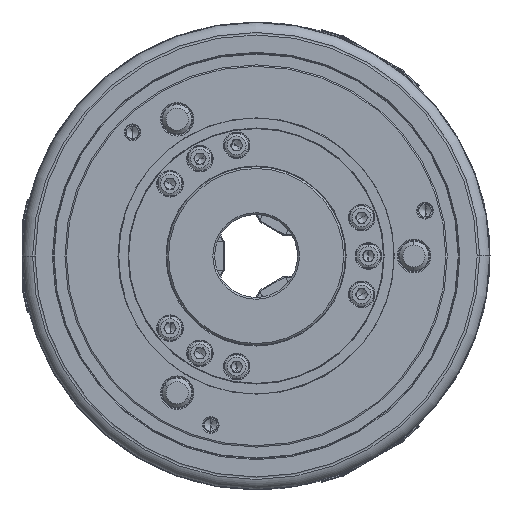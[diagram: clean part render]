
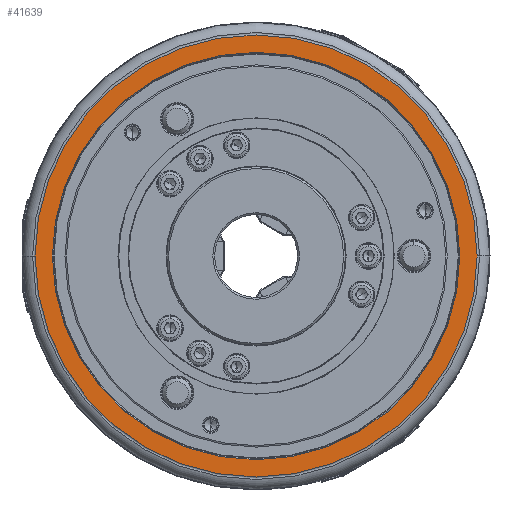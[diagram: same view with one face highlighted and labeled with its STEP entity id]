
A CAD part, left-side view. The second image highlights one B-rep face of the part: STEP entity #41639.
In plain terms, the highlighted planar face has unit normal (-1, 0, 0).
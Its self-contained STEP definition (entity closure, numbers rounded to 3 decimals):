
#12184 = CIRCLE ( 'NONE', #67611, 120. ) ;
#13625 = FACE_BOUND ( 'NONE', #81416, .T. ) ;
#15366 = AXIS2_PLACEMENT_3D ( 'NONE', #86718, #95132, #49461 ) ;
#16721 = DIRECTION ( 'NONE',  ( 1., 0., 0. ) ) ;
#17002 = CIRCLE ( 'NONE', #15366, 110.6 ) ;
#17230 = AXIS2_PLACEMENT_3D ( 'NONE', #88592, #88114, #20124 ) ;
#20124 = DIRECTION ( 'NONE',  ( 0., 1., 0. ) ) ;
#27505 = FACE_OUTER_BOUND ( 'NONE', #76422, .T. ) ;
#28470 = EDGE_CURVE ( 'NONE', #68315, #33707, #51275, .T. ) ;
#30178 = CARTESIAN_POINT ( 'NONE',  ( -100., 0., -110.6 ) ) ;
#33707 = VERTEX_POINT ( 'NONE', #30178 ) ;
#39795 = ORIENTED_EDGE ( 'NONE', *, *, #79441, .T. ) ;
#41639 = ADVANCED_FACE ( 'NONE', ( #27505, #13625 ), #89045, .T. ) ;
#43970 = CARTESIAN_POINT ( 'NONE',  ( -100., 0., 0. ) ) ;
#49461 = DIRECTION ( 'NONE',  ( 0., 0., -1. ) ) ;
#51275 = CIRCLE ( 'NONE', #60752, 110.6 ) ;
#51694 = EDGE_CURVE ( 'NONE', #79803, #80793, #82166, .T. ) ;
#51891 = DIRECTION ( 'NONE',  ( 0., 1., 0. ) ) ;
#53373 = DIRECTION ( 'NONE',  ( 0., 0., -1. ) ) ;
#57037 = AXIS2_PLACEMENT_3D ( 'NONE', #64687, #73135, #79616 ) ;
#59374 = CARTESIAN_POINT ( 'NONE',  ( -100., 0., 110.6 ) ) ;
#59680 = ORIENTED_EDGE ( 'NONE', *, *, #28470, .T. ) ;
#60752 = AXIS2_PLACEMENT_3D ( 'NONE', #77219, #16721, #53373 ) ;
#64687 = CARTESIAN_POINT ( 'NONE',  ( -100., 55.3, -95.782 ) ) ;
#67611 = AXIS2_PLACEMENT_3D ( 'NONE', #43970, #90640, #51891 ) ;
#68315 = VERTEX_POINT ( 'NONE', #59374 ) ;
#69738 = CARTESIAN_POINT ( 'NONE',  ( -100., 120., 0. ) ) ;
#73135 = DIRECTION ( 'NONE',  ( -1., 0., 0. ) ) ;
#74443 = ORIENTED_EDGE ( 'NONE', *, *, #79601, .F. ) ;
#76422 = EDGE_LOOP ( 'NONE', ( #74443, #96718 ) ) ;
#77219 = CARTESIAN_POINT ( 'NONE',  ( -100., 0., 0. ) ) ;
#79441 = EDGE_CURVE ( 'NONE', #33707, #68315, #17002, .T. ) ;
#79601 = EDGE_CURVE ( 'NONE', #80793, #79803, #12184, .T. ) ;
#79616 = DIRECTION ( 'NONE',  ( 0., 0., 1. ) ) ;
#79803 = VERTEX_POINT ( 'NONE', #80117 ) ;
#80117 = CARTESIAN_POINT ( 'NONE',  ( -100., -120., 0. ) ) ;
#80793 = VERTEX_POINT ( 'NONE', #69738 ) ;
#81416 = EDGE_LOOP ( 'NONE', ( #59680, #39795 ) ) ;
#82166 = CIRCLE ( 'NONE', #17230, 120. ) ;
#86718 = CARTESIAN_POINT ( 'NONE',  ( -100., 0., 0. ) ) ;
#88114 = DIRECTION ( 'NONE',  ( 1., 0., 0. ) ) ;
#88592 = CARTESIAN_POINT ( 'NONE',  ( -100., 0., 0. ) ) ;
#89045 = PLANE ( 'NONE',  #57037 ) ;
#90640 = DIRECTION ( 'NONE',  ( 1., 0., 0. ) ) ;
#95132 = DIRECTION ( 'NONE',  ( 1., 0., 0. ) ) ;
#96718 = ORIENTED_EDGE ( 'NONE', *, *, #51694, .F. ) ;
